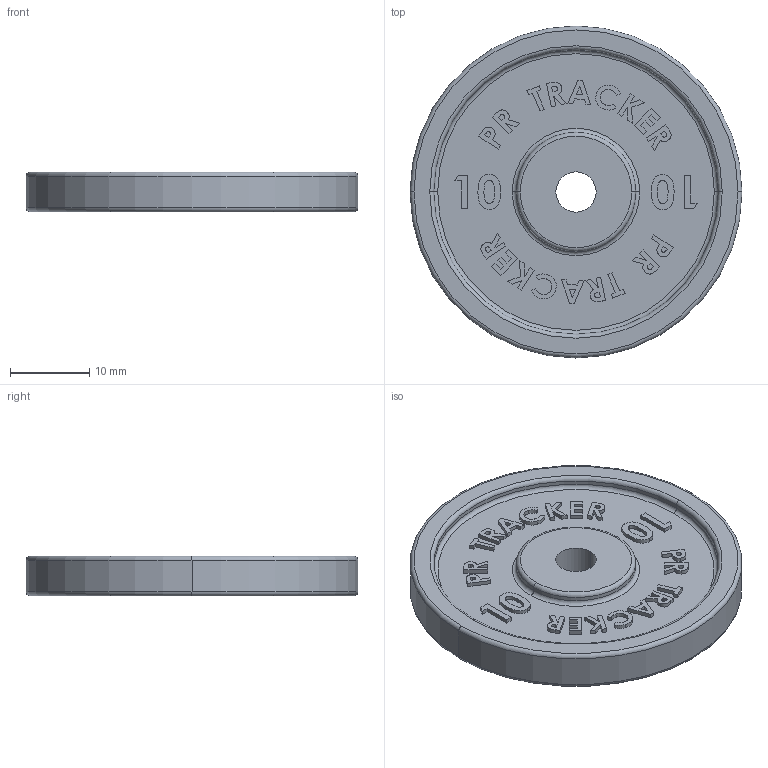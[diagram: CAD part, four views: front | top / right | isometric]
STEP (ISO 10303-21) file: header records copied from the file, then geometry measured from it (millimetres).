
FILE_DESCRIPTION (( 'STEP AP214' ), '1' );
FILE_NAME ('10.STEP', '2024-06-19T14:17:40', ( '' ), ( '' ), 'SwSTEP 2.0', 'SolidWorks 2022', '' );
FILE_SCHEMA (( 'AUTOMOTIVE_DESIGN' ));
Length unit declared in the file: millimetre
Products named in the file (1): 10
Bounding box: 42 x 42 x 5 mm (x, y, z)
Volume: 4380.3 mm3; surface area: 4054.8 mm2
Topology: 1 solids, 1 shells, 610 faces, 1588 edges, 1052 vertices
Faces by surface type: plane 434, bspline 144, torus 20, cylinder 12
Entity records: 27538 total; most frequent: CARTESIAN_POINT 13443, ORIENTED_EDGE 3176, DIRECTION 2298, EDGE_CURVE 1588, VECTOR 1236, LINE 1236, VERTEX_POINT 1052, EDGE_LOOP 684
